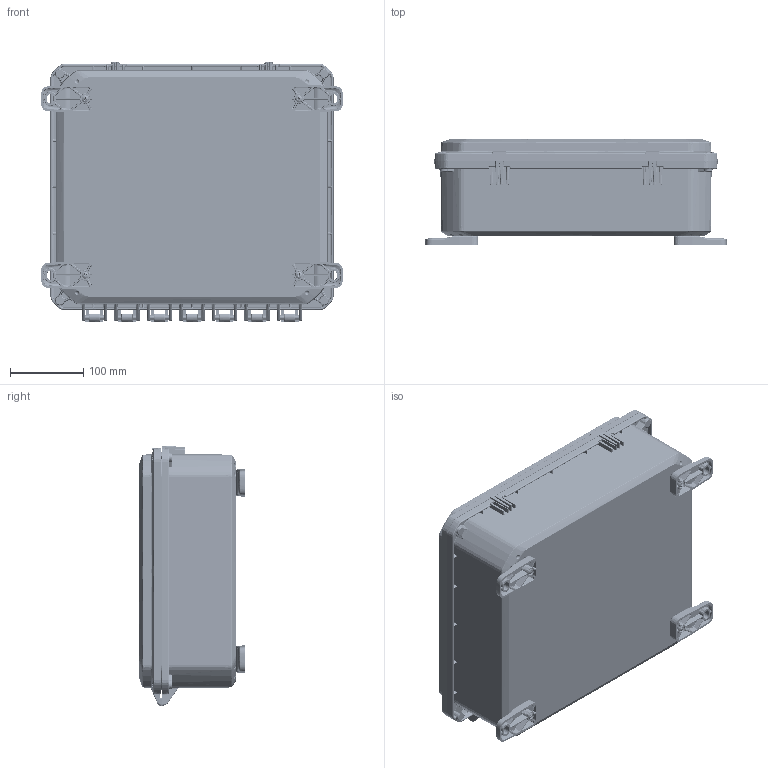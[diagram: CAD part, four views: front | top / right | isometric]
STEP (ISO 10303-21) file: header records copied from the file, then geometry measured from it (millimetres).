
FILE_DESCRIPTION (( 'STEP AP214' ), '1' );
FILE_NAME ('ZH-141204-03.STEP', '2024-10-25T19:23:27', ( '' ), ( '' ), 'SwSTEP 2.0', 'SolidWorks 2024', '' );
FILE_SCHEMA (( 'AUTOMOTIVE_DESIGN' ));
Products named in the file (10): Z_-14124BI_ZH-14124BI-01; LABEL-104; Z_-14121CG_ZH-14121CG-01; Z_-14121C_ZH-14121C-01; SCREWS-046_SCREWS-046; ZH-01F_ZH-01F-01; ZH-1412G; ZH-141204-03; INSERTS-4; Z_-14124B_ZH-14124B-01
Assembly tree (30 placements, depth 3):
  ZH-141204-03
    Z_-14124BI_ZH-14124BI-01
      Z_-14124B_ZH-14124B-01
      INSERTS-4  x12
      LABEL-104
    Z_-14121CG_ZH-14121CG-01
      Z_-14121C_ZH-14121C-01
      ZH-1412G
    SCREWS-046_SCREWS-046  x8
    ZH-01F_ZH-01F-01  x4
Bounding box: 412.75 x 145.34 x 355.47 mm (x, y, z)
Volume: 2154140.1 mm3; surface area: 1034035.1 mm2
Topology: 28 solids, 28 shells, 9695 faces, 23777 edges, 14028 vertices
Faces by surface type: bspline 3047, cylinder 2158, plane 1818, cone 1720, torus 912, sphere 40
Entity records: 301171 total; most frequent: CARTESIAN_POINT 172435, ORIENTED_EDGE 30110, DIRECTION 23353, EDGE_CURVE 15055, AXIS2_PLACEMENT_3D 9572, VERTEX_POINT 8808, EDGE_LOOP 6557, FACE_OUTER_BOUND 6387
